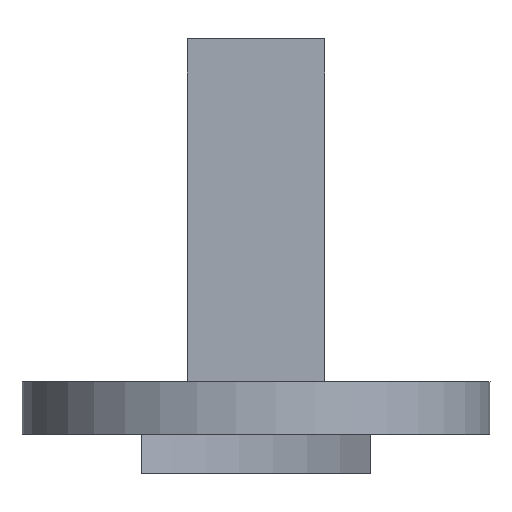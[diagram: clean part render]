
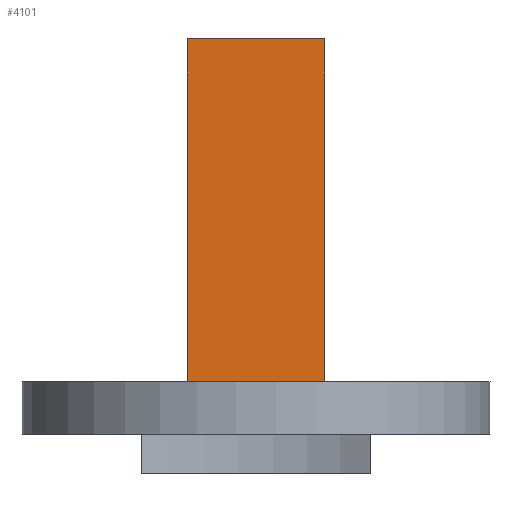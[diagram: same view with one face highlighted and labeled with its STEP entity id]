
A CAD part, front view. The second image highlights one B-rep face of the part: STEP entity #4101.
In plain terms, the highlighted planar face has unit normal (0, -1, 0).
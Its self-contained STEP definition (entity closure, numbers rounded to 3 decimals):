
#100 = PLANE('',#101);
#101 = AXIS2_PLACEMENT_3D('',#102,#103,#104);
#102 = CARTESIAN_POINT('',(0.,0.,0.));
#103 = DIRECTION('',(0.,0.,-1.));
#104 = DIRECTION('',(1.,0.,0.));
#128 = PLANE('',#129);
#129 = AXIS2_PLACEMENT_3D('',#130,#131,#132);
#130 = CARTESIAN_POINT('',(6.,29.,-8.));
#131 = DIRECTION('',(1.,0.,0.));
#132 = DIRECTION('',(0.,1.,0.));
#156 = PLANE('',#157);
#157 = AXIS2_PLACEMENT_3D('',#158,#159,#160);
#158 = CARTESIAN_POINT('',(-6.,29.,30.));
#159 = DIRECTION('',(0.,0.,1.));
#160 = DIRECTION('',(1.,0.,0.));
#184 = PLANE('',#185);
#185 = AXIS2_PLACEMENT_3D('',#186,#187,#188);
#186 = CARTESIAN_POINT('',(-6.,29.,-8.));
#187 = DIRECTION('',(1.,0.,0.));
#188 = DIRECTION('',(0.,1.,0.));
#4031 = EDGE_CURVE('',#4032,#4034,#4036,.T.);
#4032 = VERTEX_POINT('',#4033);
#4033 = CARTESIAN_POINT('',(-6.,29.,0.));
#4034 = VERTEX_POINT('',#4035);
#4035 = CARTESIAN_POINT('',(-6.,29.,30.));
#4036 = SURFACE_CURVE('',#4037,(#4041,#4048),.PCURVE_S1.);
#4037 = LINE('',#4038,#4039);
#4038 = CARTESIAN_POINT('',(-6.,29.,-8.));
#4039 = VECTOR('',#4040,1.);
#4040 = DIRECTION('',(0.,0.,1.));
#4041 = PCURVE('',#184,#4042);
#4042 = DEFINITIONAL_REPRESENTATION('',(#4043),#4047);
#4043 = LINE('',#4044,#4045);
#4044 = CARTESIAN_POINT('',(0.,0.));
#4045 = VECTOR('',#4046,1.);
#4046 = DIRECTION('',(0.,1.));
#4047 = ( GEOMETRIC_REPRESENTATION_CONTEXT(2) 
PARAMETRIC_REPRESENTATION_CONTEXT() REPRESENTATION_CONTEXT('2D SPACE',''
  ) );
#4048 = PCURVE('',#4049,#4054);
#4049 = PLANE('',#4050);
#4050 = AXIS2_PLACEMENT_3D('',#4051,#4052,#4053);
#4051 = CARTESIAN_POINT('',(-6.,29.,-8.));
#4052 = DIRECTION('',(0.,1.,0.));
#4053 = DIRECTION('',(1.,0.,0.));
#4054 = DEFINITIONAL_REPRESENTATION('',(#4055),#4059);
#4055 = LINE('',#4056,#4057);
#4056 = CARTESIAN_POINT('',(0.,0.));
#4057 = VECTOR('',#4058,1.);
#4058 = DIRECTION('',(0.,-1.));
#4059 = ( GEOMETRIC_REPRESENTATION_CONTEXT(2) 
PARAMETRIC_REPRESENTATION_CONTEXT() REPRESENTATION_CONTEXT('2D SPACE',''
  ) );
#4101 = ADVANCED_FACE('',(#4102),#4049,.F.);
#4102 = FACE_BOUND('',#4103,.F.);
#4103 = EDGE_LOOP('',(#4104,#4129,#4148,#4149));
#4104 = ORIENTED_EDGE('',*,*,#4105,.F.);
#4105 = EDGE_CURVE('',#4106,#4108,#4110,.T.);
#4106 = VERTEX_POINT('',#4107);
#4107 = CARTESIAN_POINT('',(6.,29.,0.));
#4108 = VERTEX_POINT('',#4109);
#4109 = CARTESIAN_POINT('',(6.,29.,30.));
#4110 = SURFACE_CURVE('',#4111,(#4115,#4122),.PCURVE_S1.);
#4111 = LINE('',#4112,#4113);
#4112 = CARTESIAN_POINT('',(6.,29.,-8.));
#4113 = VECTOR('',#4114,1.);
#4114 = DIRECTION('',(0.,0.,1.));
#4115 = PCURVE('',#4049,#4116);
#4116 = DEFINITIONAL_REPRESENTATION('',(#4117),#4121);
#4117 = LINE('',#4118,#4119);
#4118 = CARTESIAN_POINT('',(12.,0.));
#4119 = VECTOR('',#4120,1.);
#4120 = DIRECTION('',(0.,-1.));
#4121 = ( GEOMETRIC_REPRESENTATION_CONTEXT(2) 
PARAMETRIC_REPRESENTATION_CONTEXT() REPRESENTATION_CONTEXT('2D SPACE',''
  ) );
#4122 = PCURVE('',#128,#4123);
#4123 = DEFINITIONAL_REPRESENTATION('',(#4124),#4128);
#4124 = LINE('',#4125,#4126);
#4125 = CARTESIAN_POINT('',(0.,0.));
#4126 = VECTOR('',#4127,1.);
#4127 = DIRECTION('',(0.,1.));
#4128 = ( GEOMETRIC_REPRESENTATION_CONTEXT(2) 
PARAMETRIC_REPRESENTATION_CONTEXT() REPRESENTATION_CONTEXT('2D SPACE',''
  ) );
#4129 = ORIENTED_EDGE('',*,*,#4130,.F.);
#4130 = EDGE_CURVE('',#4032,#4106,#4131,.T.);
#4131 = SURFACE_CURVE('',#4132,(#4136,#4142),.PCURVE_S1.);
#4132 = LINE('',#4133,#4134);
#4133 = CARTESIAN_POINT('',(-3.,29.,0.));
#4134 = VECTOR('',#4135,1.);
#4135 = DIRECTION('',(1.,-0.,0.));
#4136 = PCURVE('',#4049,#4137);
#4137 = DEFINITIONAL_REPRESENTATION('',(#4138),#4141);
#4138 = B_SPLINE_CURVE_WITH_KNOTS('',1,(#4139,#4140),.UNSPECIFIED.,.F.,
  .F.,(2,2),(-3.,9.),.PIECEWISE_BEZIER_KNOTS.);
#4139 = CARTESIAN_POINT('',(0.,-8.));
#4140 = CARTESIAN_POINT('',(12.,-8.));
#4141 = ( GEOMETRIC_REPRESENTATION_CONTEXT(2) 
PARAMETRIC_REPRESENTATION_CONTEXT() REPRESENTATION_CONTEXT('2D SPACE',''
  ) );
#4142 = PCURVE('',#100,#4143);
#4143 = DEFINITIONAL_REPRESENTATION('',(#4144),#4147);
#4144 = B_SPLINE_CURVE_WITH_KNOTS('',1,(#4145,#4146),.UNSPECIFIED.,.F.,
  .F.,(2,2),(-3.,9.),.PIECEWISE_BEZIER_KNOTS.);
#4145 = CARTESIAN_POINT('',(-6.,-29.));
#4146 = CARTESIAN_POINT('',(6.,-29.));
#4147 = ( GEOMETRIC_REPRESENTATION_CONTEXT(2) 
PARAMETRIC_REPRESENTATION_CONTEXT() REPRESENTATION_CONTEXT('2D SPACE',''
  ) );
#4148 = ORIENTED_EDGE('',*,*,#4031,.T.);
#4149 = ORIENTED_EDGE('',*,*,#4150,.T.);
#4150 = EDGE_CURVE('',#4034,#4108,#4151,.T.);
#4151 = SURFACE_CURVE('',#4152,(#4156,#4163),.PCURVE_S1.);
#4152 = LINE('',#4153,#4154);
#4153 = CARTESIAN_POINT('',(-6.,29.,30.));
#4154 = VECTOR('',#4155,1.);
#4155 = DIRECTION('',(1.,0.,0.));
#4156 = PCURVE('',#4049,#4157);
#4157 = DEFINITIONAL_REPRESENTATION('',(#4158),#4162);
#4158 = LINE('',#4159,#4160);
#4159 = CARTESIAN_POINT('',(0.,-38.));
#4160 = VECTOR('',#4161,1.);
#4161 = DIRECTION('',(1.,0.));
#4162 = ( GEOMETRIC_REPRESENTATION_CONTEXT(2) 
PARAMETRIC_REPRESENTATION_CONTEXT() REPRESENTATION_CONTEXT('2D SPACE',''
  ) );
#4163 = PCURVE('',#156,#4164);
#4164 = DEFINITIONAL_REPRESENTATION('',(#4165),#4169);
#4165 = LINE('',#4166,#4167);
#4166 = CARTESIAN_POINT('',(0.,0.));
#4167 = VECTOR('',#4168,1.);
#4168 = DIRECTION('',(1.,0.));
#4169 = ( GEOMETRIC_REPRESENTATION_CONTEXT(2) 
PARAMETRIC_REPRESENTATION_CONTEXT() REPRESENTATION_CONTEXT('2D SPACE',''
  ) );
